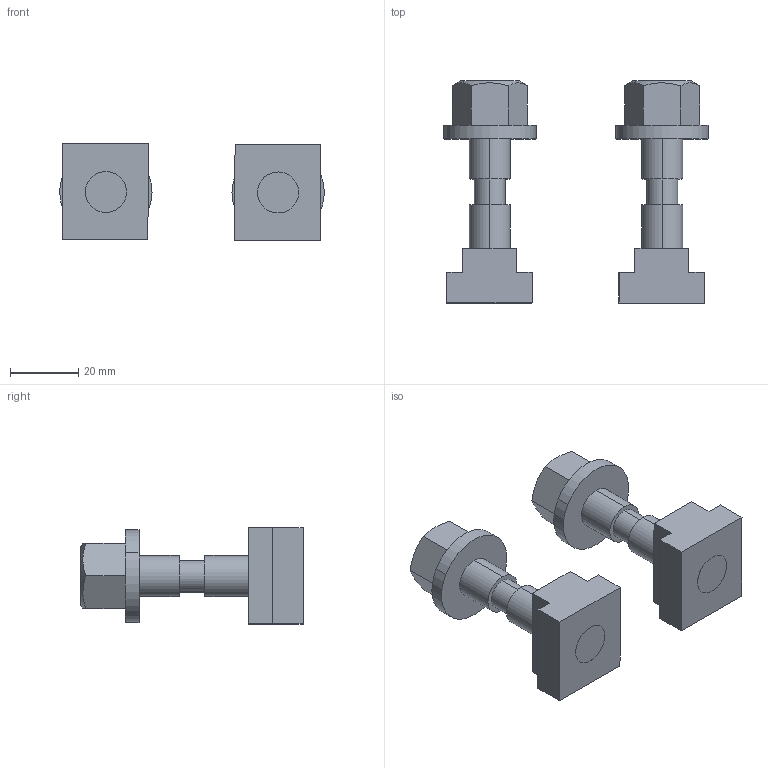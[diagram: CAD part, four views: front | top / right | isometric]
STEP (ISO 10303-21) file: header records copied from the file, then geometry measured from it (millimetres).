
FILE_DESCRIPTION (( 'STEP AP214' ), '1' );
FILE_NAME ('10000184200.STEP', '2022-06-08T20:49:20', ( '' ), ( '' ), 'SwSTEP 2.0', 'SolidWorks 2021', '' );
FILE_SCHEMA (( 'AUTOMOTIVE_DESIGN' ));
Length unit declared in the file: inch
Products named in the file (4): 10000155028; 10000184200; 10000154971; 10000155057
Assembly tree (6 placements, depth 2):
  10000184200
    10000154971  x2
    10000155057  x2
    10000155028  x2
Bounding box: 77.4 x 65 x 28.34 mm (x, y, z)
Volume: 38017.7 mm3; surface area: 17551.4 mm2
Topology: 6 solids, 6 shells, 74 faces, 168 edges, 112 vertices
Faces by surface type: plane 46, cylinder 24, cone 4
Entity records: 1376 total; most frequent: CARTESIAN_POINT 250, DIRECTION 194, ORIENTED_EDGE 168, EDGE_CURVE 84, AXIS2_PLACEMENT_3D 72, VERTEX_POINT 56, VECTOR 50, LINE 50
